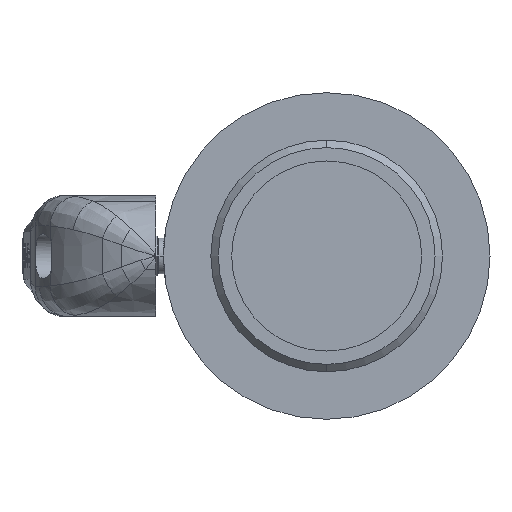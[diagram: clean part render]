
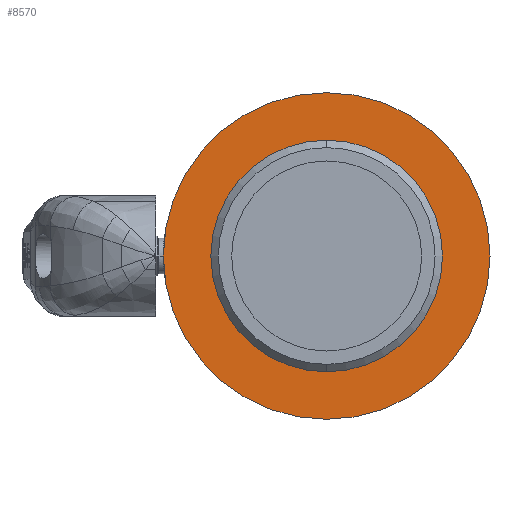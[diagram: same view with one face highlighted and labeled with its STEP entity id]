
A CAD part, left-side view. The second image highlights one B-rep face of the part: STEP entity #8570.
In plain terms, the highlighted planar face has unit normal (-1, 0, 0) as drawn and (1, 0, 0) by its records, which use the part's own axes.
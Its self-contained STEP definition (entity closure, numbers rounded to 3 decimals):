
#1300=CARTESIAN_POINT('',(82.018,-10.735,0.));
#1310=VERTEX_POINT('',#1300);
#1340=CARTESIAN_POINT('',(82.018,44.265,0.));
#1350=DIRECTION('',(-1.,0.,0.));
#1360=DIRECTION('',(0.,1.,0.));
#1370=AXIS2_PLACEMENT_3D('',#1340,#1350,#1360);
#1380=CIRCLE('',#1370,55.);
#1390=CARTESIAN_POINT('',(82.018,99.265,0.));
#1400=VERTEX_POINT('',#1390);
#1410=EDGE_CURVE('',#1400,#1310,#1380,.T.);
#8320=CARTESIAN_POINT('',(82.018,-1.985,0.));
#8330=DIRECTION('',(-1.,0.,0.));
#8340=DIRECTION('',(0.,1.,0.));
#8350=AXIS2_PLACEMENT_3D('',#8320,#8330,#8340);
#8360=PLANE('',#8350);
#8370=EDGE_CURVE('',#1310,#1400,#1380,.T.);
#8380=ORIENTED_EDGE('',*,*,#8370,.F.);
#8390=ORIENTED_EDGE('',*,*,#1410,.F.);
#8400=EDGE_LOOP('',(#8390,#8380));
#8410=FACE_OUTER_BOUND('',#8400,.T.);
#8420=CARTESIAN_POINT('',(82.018,44.265,0.));
#8430=DIRECTION('',(1.,0.,0.));
#8440=DIRECTION('',(0.,-1.,0.));
#8450=AXIS2_PLACEMENT_3D('',#8420,#8430,#8440);
#8460=CIRCLE('',#8450,37.5);
#8470=CARTESIAN_POINT('',(82.018,81.765,0.));
#8480=VERTEX_POINT('',#8470);
#8490=CARTESIAN_POINT('',(82.018,6.765,0.));
#8500=VERTEX_POINT('',#8490);
#8510=EDGE_CURVE('',#8480,#8500,#8460,.T.);
#8520=ORIENTED_EDGE('',*,*,#8510,.F.);
#8530=EDGE_CURVE('',#8500,#8480,#8460,.T.);
#8540=ORIENTED_EDGE('',*,*,#8530,.F.);
#8550=EDGE_LOOP('',(#8540,#8520));
#8560=FACE_BOUND('',#8550,.T.);
#8570=ADVANCED_FACE('',(#8410,#8560),#8360,.F.);
